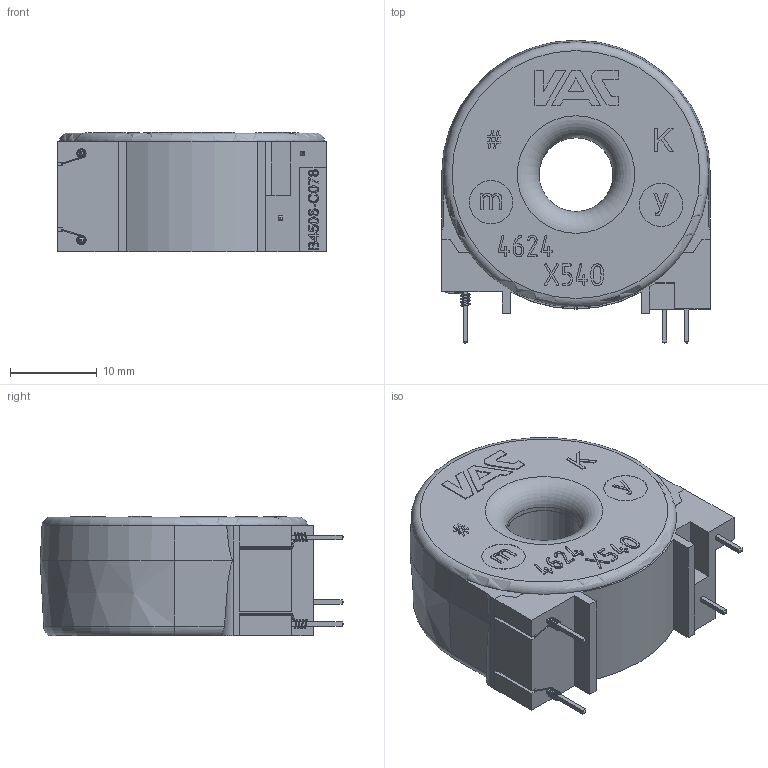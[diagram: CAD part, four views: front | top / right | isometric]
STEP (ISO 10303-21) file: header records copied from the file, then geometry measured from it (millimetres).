
FILE_DESCRIPTION(/* description */ (''),/* implementation_level */ '2;1');
FILE_NAME(/* name */ '4624-X540 (K30782) CT_Vereinfachen_1.stp',/* time_stamp */ '2025-10-22T16:28:23+02:00',/* author */ ('de011266'),/* organization */ (''),/* preprocessor_version */ 'ST-DEVELOPER v20',/* originating_system */ 'Autodesk Inventor 2025',/* authorisation */ '');
FILE_SCHEMA (('AUTOMOTIVE_DESIGN { 1 0 10303 214 3 1 1 }'));
Length unit declared in the file: millimetre
Products named in the file (1): 4624-X540  (K30782) CT_Vereinfachen_1
Bounding box: 31 x 35 x 13.8 mm (x, y, z)
Volume: 10153.9 mm3; surface area: 3505.2 mm2
Topology: 1 solids, 1 shells, 531 faces, 1421 edges, 934 vertices
Faces by surface type: plane 307, bspline 193, cylinder 23, torus 6, cone 2
Full cylindrical faces by diameter (mm): 0.125 x6, 5 x2, 8.5 x1, 8.55 x1
Entity records: 18487 total; most frequent: CARTESIAN_POINT 5877, ORIENTED_EDGE 2834, DIRECTION 1786, EDGE_CURVE 1417, LINE 958, VECTOR 958, VERTEX_POINT 934, EDGE_LOOP 579
